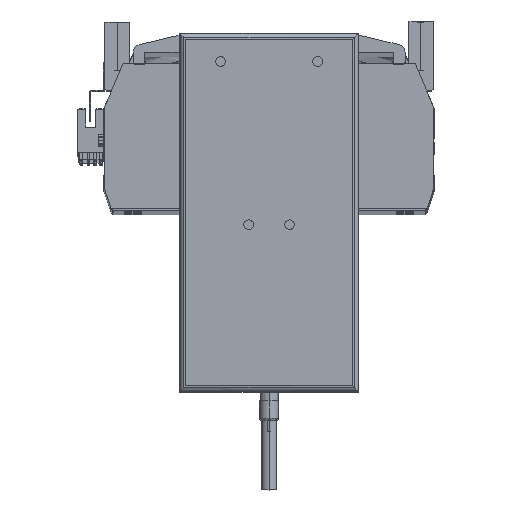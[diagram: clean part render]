
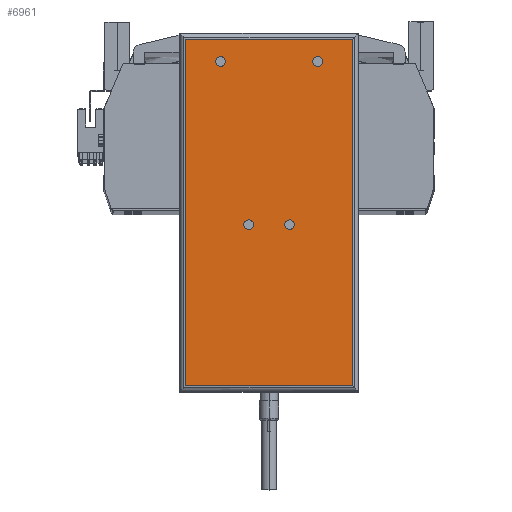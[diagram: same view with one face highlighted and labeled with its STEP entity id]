
A CAD part, top view. The second image highlights one B-rep face of the part: STEP entity #6961.
In plain terms, the highlighted planar face has unit normal (0, 0, 1) as drawn and (0, 0, -1) by its records, which use the part's own axes.
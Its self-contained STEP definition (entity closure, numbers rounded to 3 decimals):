
#800 = VECTOR ( 'NONE', #1897, 1000. ) ;
#874 = FACE_BOUND ( 'NONE', #37366, .T. ) ;
#897 = DIRECTION ( 'NONE',  ( 1., 0., 0. ) ) ;
#1033 = EDGE_CURVE ( 'NONE', #28232, #16904, #2752, .T. ) ;
#1221 = ORIENTED_EDGE ( 'NONE', *, *, #22089, .F. ) ;
#1897 = DIRECTION ( 'NONE',  ( -1., 0., 0. ) ) ;
#2745 = FACE_BOUND ( 'NONE', #28656, .T. ) ;
#2752 = LINE ( 'NONE', #27182, #44652 ) ;
#2779 = DIRECTION ( 'NONE',  ( 0., -1., 0. ) ) ;
#3381 = AXIS2_PLACEMENT_3D ( 'NONE', #37440, #29250, #897 ) ;
#4022 = FACE_OUTER_BOUND ( 'NONE', #50092, .T. ) ;
#4068 = DIRECTION ( 'NONE',  ( 0., 0., -1. ) ) ;
#4541 = CARTESIAN_POINT ( 'NONE',  ( 10.5, -6.25, 0. ) ) ;
#4670 = CARTESIAN_POINT ( 'NONE',  ( -25., 77.75, 0. ) ) ;
#5099 = EDGE_CURVE ( 'NONE', #34541, #7197, #26331, .T. ) ;
#5204 = CARTESIAN_POINT ( 'NONE',  ( -43., 89.25, 0. ) ) ;
#6262 = ORIENTED_EDGE ( 'NONE', *, *, #52599, .F. ) ;
#6287 = CARTESIAN_POINT ( 'NONE',  ( 27.5, 77.75, 0. ) ) ;
#6456 = CIRCLE ( 'NONE', #22810, 2.5 ) ;
#6961 = ADVANCED_FACE ( 'NONE', ( #4022, #17274, #874, #2745, #37075 ), #37608, .F. ) ;
#7197 = VERTEX_POINT ( 'NONE', #43250 ) ;
#7438 = DIRECTION ( 'NONE',  ( -1., 0., 0. ) ) ;
#7769 = DIRECTION ( 'NONE',  ( 0., 0., -1. ) ) ;
#7909 = EDGE_CURVE ( 'NONE', #42218, #41320, #29972, .T. ) ;
#8292 = EDGE_CURVE ( 'NONE', #50532, #28232, #42644, .T. ) ;
#10238 = CARTESIAN_POINT ( 'NONE',  ( 43., -92.25, 0. ) ) ;
#10717 = DIRECTION ( 'NONE',  ( -1., 0., 0. ) ) ;
#10889 = CARTESIAN_POINT ( 'NONE',  ( 25., 77.75, 0. ) ) ;
#10907 = VECTOR ( 'NONE', #15632, 1000. ) ;
#11352 = CIRCLE ( 'NONE', #21687, 2.5 ) ;
#11525 = EDGE_CURVE ( 'NONE', #48657, #50532, #50304, .T. ) ;
#11858 = ORIENTED_EDGE ( 'NONE', *, *, #49348, .T. ) ;
#13039 = DIRECTION ( 'NONE',  ( -1., 0., 0. ) ) ;
#13174 = DIRECTION ( 'NONE',  ( 0., 0., -1. ) ) ;
#13520 = VERTEX_POINT ( 'NONE', #16799 ) ;
#14231 = DIRECTION ( 'NONE',  ( -1., 0., 0. ) ) ;
#14829 = CARTESIAN_POINT ( 'NONE',  ( 13., -6.25, 0. ) ) ;
#15632 = DIRECTION ( 'NONE',  ( 0., 1., 0. ) ) ;
#15722 = CARTESIAN_POINT ( 'NONE',  ( -10.5, -6.25, 0. ) ) ;
#15800 = DIRECTION ( 'NONE',  ( 0., 0., -1. ) ) ;
#16475 = DIRECTION ( 'NONE',  ( -1., 0., 0. ) ) ;
#16799 = CARTESIAN_POINT ( 'NONE',  ( 8., -6.25, 0. ) ) ;
#16904 = VERTEX_POINT ( 'NONE', #35339 ) ;
#17274 = FACE_BOUND ( 'NONE', #30641, .T. ) ;
#18721 = EDGE_CURVE ( 'NONE', #13520, #34103, #6456, .T. ) ;
#18832 = DIRECTION ( 'NONE',  ( 1., 0., 0. ) ) ;
#19761 = AXIS2_PLACEMENT_3D ( 'NONE', #10889, #47061, #10717 ) ;
#19882 = LINE ( 'NONE', #10238, #50382 ) ;
#20886 = ORIENTED_EDGE ( 'NONE', *, *, #29657, .F. ) ;
#21145 = CIRCLE ( 'NONE', #47684, 2.5 ) ;
#21687 = AXIS2_PLACEMENT_3D ( 'NONE', #15722, #36451, #40379 ) ;
#22089 = EDGE_CURVE ( 'NONE', #7197, #34541, #11352, .T. ) ;
#22539 = EDGE_LOOP ( 'NONE', ( #31036, #6262 ) ) ;
#22622 = EDGE_CURVE ( 'NONE', #41320, #42218, #24624, .T. ) ;
#22810 = AXIS2_PLACEMENT_3D ( 'NONE', #4541, #32929, #13039 ) ;
#23215 = CIRCLE ( 'NONE', #19761, 2.5 ) ;
#23807 = CARTESIAN_POINT ( 'NONE',  ( -43., -92.25, 0. ) ) ;
#24512 = ORIENTED_EDGE ( 'NONE', *, *, #5099, .F. ) ;
#24624 = CIRCLE ( 'NONE', #35832, 2.5 ) ;
#25608 = ORIENTED_EDGE ( 'NONE', *, *, #18721, .F. ) ;
#26331 = CIRCLE ( 'NONE', #41381, 2.5 ) ;
#27182 = CARTESIAN_POINT ( 'NONE',  ( -46., 89.25, 0. ) ) ;
#27417 = CARTESIAN_POINT ( 'NONE',  ( -43., -89.25, 0. ) ) ;
#27671 = CARTESIAN_POINT ( 'NONE',  ( 25., 77.75, 0. ) ) ;
#28232 = VERTEX_POINT ( 'NONE', #5204 ) ;
#28290 = EDGE_CURVE ( 'NONE', #42992, #45516, #23215, .T. ) ;
#28656 = EDGE_LOOP ( 'NONE', ( #30578, #35086 ) ) ;
#29250 = DIRECTION ( 'NONE',  ( 0., 0., 1. ) ) ;
#29479 = DIRECTION ( 'NONE',  ( -1., 0., 0. ) ) ;
#29657 = EDGE_CURVE ( 'NONE', #34103, #13520, #21145, .T. ) ;
#29972 = CIRCLE ( 'NONE', #32987, 2.5 ) ;
#30471 = CARTESIAN_POINT ( 'NONE',  ( -27.5, 77.75, 0. ) ) ;
#30578 = ORIENTED_EDGE ( 'NONE', *, *, #22622, .F. ) ;
#30641 = EDGE_LOOP ( 'NONE', ( #1221, #24512 ) ) ;
#31036 = ORIENTED_EDGE ( 'NONE', *, *, #28290, .F. ) ;
#32929 = DIRECTION ( 'NONE',  ( 0., 0., -1. ) ) ;
#32987 = AXIS2_PLACEMENT_3D ( 'NONE', #4670, #13174, #29479 ) ;
#34103 = VERTEX_POINT ( 'NONE', #14829 ) ;
#34541 = VERTEX_POINT ( 'NONE', #51122 ) ;
#34556 = CARTESIAN_POINT ( 'NONE',  ( -22.5, 77.75, 0. ) ) ;
#35086 = ORIENTED_EDGE ( 'NONE', *, *, #7909, .F. ) ;
#35339 = CARTESIAN_POINT ( 'NONE',  ( 43., 89.25, 0. ) ) ;
#35832 = AXIS2_PLACEMENT_3D ( 'NONE', #36867, #7769, #16475 ) ;
#36451 = DIRECTION ( 'NONE',  ( 0., 0., -1. ) ) ;
#36867 = CARTESIAN_POINT ( 'NONE',  ( -25., 77.75, 0. ) ) ;
#37075 = FACE_BOUND ( 'NONE', #22539, .T. ) ;
#37366 = EDGE_LOOP ( 'NONE', ( #25608, #20886 ) ) ;
#37440 = CARTESIAN_POINT ( 'NONE',  ( -46., -92.25, 0. ) ) ;
#37474 = CARTESIAN_POINT ( 'NONE',  ( 43., -89.25, 0. ) ) ;
#37608 = PLANE ( 'NONE',  #3381 ) ;
#38549 = DIRECTION ( 'NONE',  ( 0., 0., -1. ) ) ;
#40379 = DIRECTION ( 'NONE',  ( -1., 0., 0. ) ) ;
#40448 = CARTESIAN_POINT ( 'NONE',  ( 10.5, -6.25, 0. ) ) ;
#41320 = VERTEX_POINT ( 'NONE', #30471 ) ;
#41381 = AXIS2_PLACEMENT_3D ( 'NONE', #46677, #38549, #14231 ) ;
#41796 = ORIENTED_EDGE ( 'NONE', *, *, #1033, .T. ) ;
#41824 = CARTESIAN_POINT ( 'NONE',  ( -46., -89.25, 0. ) ) ;
#42154 = ORIENTED_EDGE ( 'NONE', *, *, #8292, .T. ) ;
#42218 = VERTEX_POINT ( 'NONE', #34556 ) ;
#42644 = LINE ( 'NONE', #23807, #10907 ) ;
#42992 = VERTEX_POINT ( 'NONE', #50537 ) ;
#43250 = CARTESIAN_POINT ( 'NONE',  ( -13., -6.25, 0. ) ) ;
#44652 = VECTOR ( 'NONE', #18832, 1000. ) ;
#44686 = DIRECTION ( 'NONE',  ( -1., 0., 0. ) ) ;
#45516 = VERTEX_POINT ( 'NONE', #6287 ) ;
#45613 = AXIS2_PLACEMENT_3D ( 'NONE', #27671, #15800, #7438 ) ;
#46677 = CARTESIAN_POINT ( 'NONE',  ( -10.5, -6.25, 0. ) ) ;
#47061 = DIRECTION ( 'NONE',  ( 0., 0., -1. ) ) ;
#47684 = AXIS2_PLACEMENT_3D ( 'NONE', #40448, #4068, #44686 ) ;
#47753 = CIRCLE ( 'NONE', #45613, 2.5 ) ;
#48657 = VERTEX_POINT ( 'NONE', #37474 ) ;
#49348 = EDGE_CURVE ( 'NONE', #16904, #48657, #19882, .T. ) ;
#50092 = EDGE_LOOP ( 'NONE', ( #11858, #50395, #42154, #41796 ) ) ;
#50304 = LINE ( 'NONE', #41824, #800 ) ;
#50382 = VECTOR ( 'NONE', #2779, 1000. ) ;
#50395 = ORIENTED_EDGE ( 'NONE', *, *, #11525, .T. ) ;
#50532 = VERTEX_POINT ( 'NONE', #27417 ) ;
#50537 = CARTESIAN_POINT ( 'NONE',  ( 22.5, 77.75, 0. ) ) ;
#51122 = CARTESIAN_POINT ( 'NONE',  ( -8., -6.25, 0. ) ) ;
#52599 = EDGE_CURVE ( 'NONE', #45516, #42992, #47753, .T. ) ;
